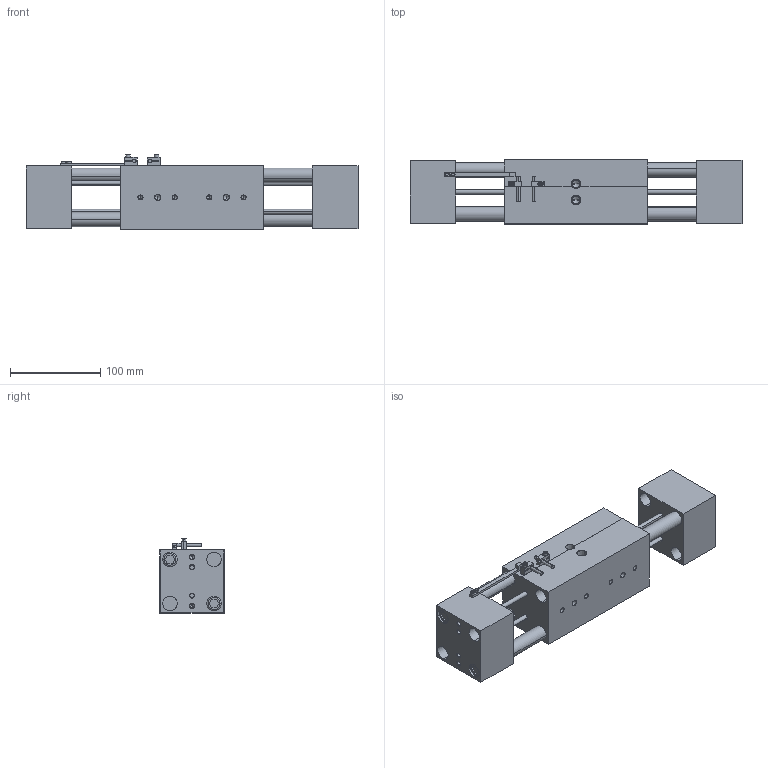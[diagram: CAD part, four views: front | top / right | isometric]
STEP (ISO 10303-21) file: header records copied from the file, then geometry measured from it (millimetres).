
FILE_DESCRIPTION (( 'STEP AP203' ), '1' );
FILE_NAME ('AGW-625-4 OPEN in MM.STEP', '2014-11-25T15:54:29', ( 'setup' ), ( '' ), 'SwSTEP 2.0', 'SolidWorks 2013', '' );
FILE_SCHEMA (( 'CONFIG_CONTROL_DESIGN' ));
Length unit declared in the file: millimetre
Products named in the file (8): AGW-625-4 BODY; AGW-625-4 TOOL PLATE; AGW-625-4 SENSOR BLOCK; AGW-625-4 SENSOR; AGW-625-4 PROD; AGW-625-4 GUIDE ROD; AGW-625-4 SENSOR FLAG; AGW-625-4 OPEN in MM
Assembly tree (16 placements, depth 2):
  AGW-625-4 OPEN in MM
    AGW-625-4 BODY
    AGW-625-4 TOOL PLATE  x2
    AGW-625-4 SENSOR BLOCK  x2
    AGW-625-4 SENSOR  x2
    AGW-625-4 PROD  x4
    AGW-625-4 GUIDE ROD  x4
    AGW-625-4 SENSOR FLAG
Bounding box: 368.3 x 71.12 x 83.19 mm (x, y, z)
Volume: 1157014.4 mm3; surface area: 201834.6 mm2
Topology: 20 solids, 20 shells, 389 faces, 922 edges, 564 vertices
Faces by surface type: plane 161, cylinder 134, cone 82, torus 12
Entity records: 8372 total; most frequent: DIRECTION 1362, CARTESIAN_POINT 1236, ORIENTED_EDGE 1164, EDGE_CURVE 582, AXIS2_PLACEMENT_3D 508, VERTEX_POINT 368, LINE 346, VECTOR 346
